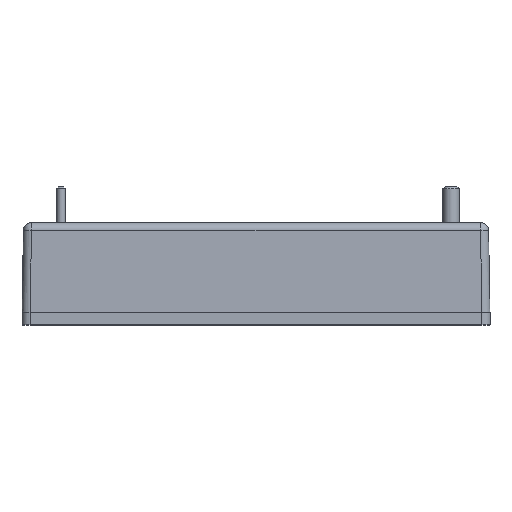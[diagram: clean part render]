
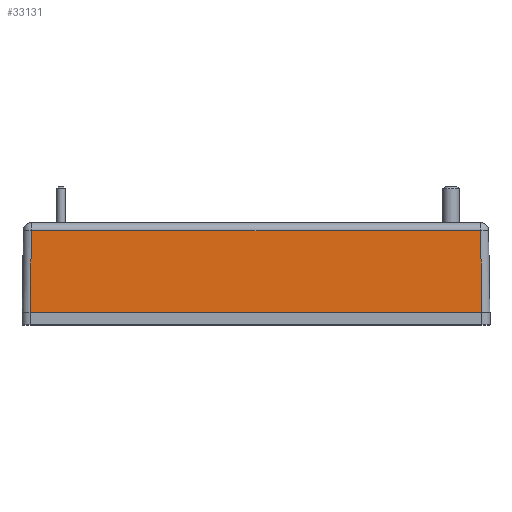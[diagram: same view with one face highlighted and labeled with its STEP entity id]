
A CAD part, top view. The second image highlights one B-rep face of the part: STEP entity #33131.
In plain terms, the highlighted planar face has unit normal (0, 0.018, 1) as drawn and (0, 0.017, -1) by its records, which use the part's own axes.
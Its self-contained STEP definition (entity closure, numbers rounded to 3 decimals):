
#33090 = ORIENTED_EDGE ( 'NONE', *, *, #33092, .T. ) ;
#33092 = EDGE_CURVE ( 'NONE', #33138, #33094, #39212, .T. ) ;
#33094 = VERTEX_POINT ( 'NONE', #39206 ) ;
#33095 = ORIENTED_EDGE ( 'NONE', *, *, #33097, .T. ) ;
#33097 = EDGE_CURVE ( 'NONE', #33094, #33099, #39199, .T. ) ;
#33099 = VERTEX_POINT ( 'NONE', #39193 ) ;
#33101 = ORIENTED_EDGE ( 'NONE', *, *, #33103, .T. ) ;
#33103 = EDGE_CURVE ( 'NONE', #33099, #33136, #39189, .T. ) ;
#33131 = ADVANCED_FACE ( 'NONE', ( #39272 ), #39270, .T. ) ;
#33132 = EDGE_LOOP ( 'NONE', ( #33133, #33090, #33095, #33101 ) ) ;
#33133 = ORIENTED_EDGE ( 'NONE', *, *, #33134, .T. ) ;
#33134 = EDGE_CURVE ( 'NONE', #33136, #33138, #39264, .T. ) ;
#33136 = VERTEX_POINT ( 'NONE', #39250 ) ;
#33138 = VERTEX_POINT ( 'NONE', #39398 ) ;
#39184 = DIRECTION ( 'NONE',  ( 0.017, -1., -0.017 ) ) ;
#39185 = VECTOR ( 'NONE', #39184, 1000. ) ;
#39187 = CARTESIAN_POINT ( 'NONE',  ( 27.933, 0.993, -30.483 ) ) ;
#39189 = LINE ( 'NONE', #39187, #39185 ) ;
#39193 = CARTESIAN_POINT ( 'NONE',  ( 27.774, 10.117, -30.323 ) ) ;
#39194 = DIRECTION ( 'NONE',  ( 1., 0., 0. ) ) ;
#39196 = VECTOR ( 'NONE', #39194, 1000. ) ;
#39198 = CARTESIAN_POINT ( 'NONE',  ( 28.756, 10.117, -30.323 ) ) ;
#39199 = LINE ( 'NONE', #39198, #39196 ) ;
#39206 = CARTESIAN_POINT ( 'NONE',  ( -27.774, 10.117, -30.323 ) ) ;
#39208 = DIRECTION ( 'NONE',  ( 0.017, 1., 0.017 ) ) ;
#39209 = VECTOR ( 'NONE', #39208, 1000. ) ;
#39210 = CARTESIAN_POINT ( 'NONE',  ( -27.95, -0.017, -30.5 ) ) ;
#39212 = LINE ( 'NONE', #39210, #39209 ) ;
#39250 = CARTESIAN_POINT ( 'NONE',  ( 27.95, 0., -30.5 ) ) ;
#39251 = DIRECTION ( 'NONE',  ( -1., 0., 0. ) ) ;
#39253 = VECTOR ( 'NONE', #39251, 1000. ) ;
#39255 = CARTESIAN_POINT ( 'NONE',  ( -28.95, 0., -30.5 ) ) ;
#39258 = DIRECTION ( 'NONE',  ( 0., 1., 0.017 ) ) ;
#39260 = DIRECTION ( 'NONE',  ( 0., 0.017, -1. ) ) ;
#39262 = AXIS2_PLACEMENT_3D ( 'NONE', #39269, #39260, #39258 ) ;
#39264 = LINE ( 'NONE', #39255, #39253 ) ;
#39269 = CARTESIAN_POINT ( 'NONE',  ( -28.95, 0., -30.5 ) ) ;
#39270 = PLANE ( 'NONE',  #39262 ) ;
#39272 = FACE_OUTER_BOUND ( 'NONE', #33132, .T. ) ;
#39398 = CARTESIAN_POINT ( 'NONE',  ( -27.95, 0., -30.5 ) ) ;
